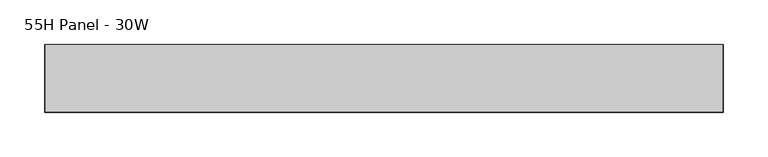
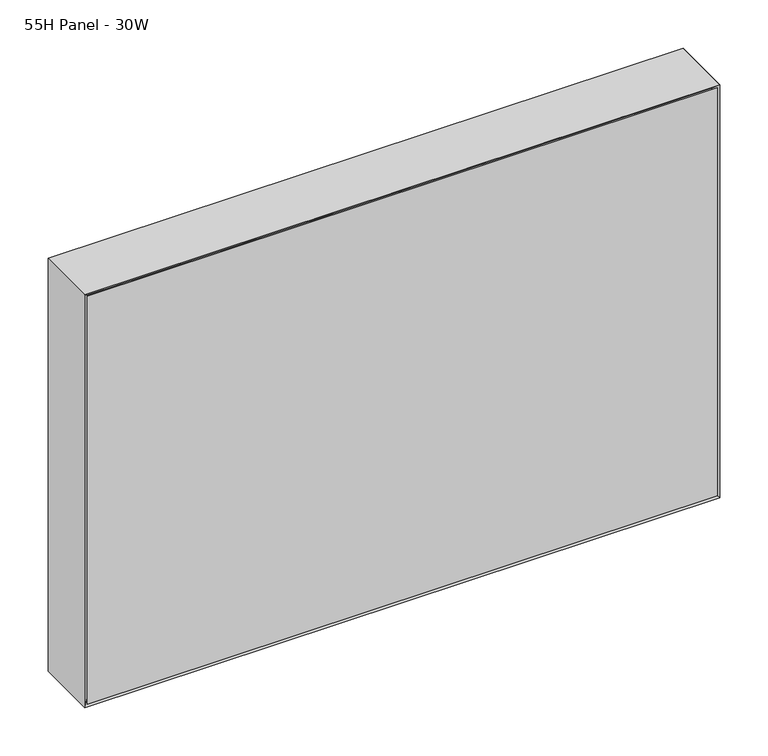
"""IFC4 building model written with IfcOpenShell, lengths in millimetres: furniture geometry, Steelcase - Montage - Frame - 20H - Enhanced Standard - Single Stack-On : 55H Panel - 30W."""

from ifc_helpers import new_model, si_unit, frame, origin, place, context, project, spatial, polyline, outline, extrude, faceted_brep, source, transform, mapped, element, save


def furniture_55h_panel_30w_9cbc1048(model_context):
    return source(origin(), model_context, "Body", "SolidModel", [
        faceted_brep([(752.4750027, 31.7500194, 1912.9374516), (9.5250028, 31.7500194, 1912.9374516), (9.5250028, 31.7500194, 1408.1125), (752.4750027, 31.7500194, 1408.1125), (758.825, 38.1000194, 1919.2874516), (758.825, 38.1000194, 1401.7625), (3.175, 38.1000194, 1401.7625), (3.175, 38.1000194, 1919.2874516)], [[[0, 1, 2, 3]], [[4, 5, 6, 7]], [[4, 0, 3, 5]], [[5, 3, 2, 6]], [[6, 2, 1, 7]], [[7, 1, 0, 4]]]),
        faceted_brep([(752.4750027, -31.7500194, 1912.9374516), (752.4750027, -31.7500194, 1408.1125), (9.5250028, -31.7500194, 1408.1125), (9.5250028, -31.7500194, 1912.9374516), (758.825, -38.1000194, 1919.2874516), (3.175, -38.1000194, 1919.2874516), (3.175, -38.1000194, 1401.7625), (758.825, -38.1000194, 1401.7625)], [[[0, 1, 2, 3]], [[4, 5, 6, 7]], [[4, 7, 1, 0]], [[7, 6, 2, 1]], [[6, 5, 3, 2]], [[5, 4, 0, 3]]]),
        faceted_brep([(762.0, -38.1000015, 1398.5875), (762.0, 38.1000015, 1398.5875), (762.0, 38.1000015, 1922.4624516), (762.0, -38.1000106, 1922.4624515), (0.0, 38.1000015, 1398.5875), (0.0, -38.1000015, 1398.5875), (0.0, -38.1000015, 1922.4624516), (0.0, 38.1000015, 1922.4624516), (6.3500484, 31.749953, 1404.9375484), (755.6499879, 31.749953, 1404.9375484), (6.35, -31.749953, 1404.9375484), (755.6499879, -31.749953, 1404.9375484), (6.3500165, 31.749985, 1916.112435), (6.3500006, -31.7500009, 1916.1124031), (755.6499879, -31.7499979, 1916.1124031), (755.6499879, 31.7499889, 1916.1124394)], [[[0, 1, 2, 3]], [[4, 5, 6, 7]], [[1, 0, 5, 4]], [[1, 4, 8, 9]], [[9, 8, 10, 11]], [[5, 0, 11, 10]], [[4, 7, 12, 8]], [[6, 5, 10, 13]], [[10, 8, 12, 13]], [[9, 11, 14, 15]], [[0, 3, 14, 11]], [[2, 1, 9, 15]], [[3, 2, 15, 14]], [[7, 6, 13, 12]]]),
        faceted_brep([(762.0, -38.1000015, 1922.4624516), (0.0, -38.1000015, 1922.4624516), (6.3500484, -31.749953, 1916.1124031), (755.6499516, -31.749953, 1916.1124031), (6.3500484, 31.749953, 1916.1124031), (755.6499516, 31.749953, 1916.1124031), (0.0, 38.1000015, 1922.4624516), (762.0, 38.1000015, 1922.4624516)], [[[0, 1, 2, 3]], [[3, 2, 4, 5]], [[6, 7, 5, 4]], [[1, 0, 7, 6]], [[2, 1, 6, 4]], [[0, 3, 5, 7]]]),
        extrude(outline(polyline([(755.6499879, 31.7500016), (755.6499879, -31.7499985), (6.35, -31.7499985), (6.35, 31.7500016), (755.6499879, 31.7500016)])), frame((0.0, 0.0, 1404.9327145), z_axis=(0.0, 0.0, 1.0), x_axis=(1.0, 0.0, 0.0)), (0.0, 0.0, 1.0), 511.1796886),
    ])


if __name__ == "__main__":
    model = new_model("IFC4")
    model_context = context("Model", 3, world=origin())
    ifc_project = project(units=[si_unit("LENGTHUNIT", "METRE", prefix="MILLI")], contexts=[model_context])
    site = spatial("IfcSite", under=ifc_project)
    building = spatial("IfcBuilding", under=site)
    placement = place(None, origin())
    furniture_55h_panel_30w_shape = furniture_55h_panel_30w_9cbc1048(model_context)
    element("IfcFurniture", 1, ObjectType="Steelcase - Montage - Frame - 20H - Enhanced Standard - Single Stack-On : 55H Panel - 30W", at=placement, inside=building, context=model_context, shape_type="MappedRepresentation", body=[
        mapped(furniture_55h_panel_30w_shape, transform((0.0, 0.0, 0.0), x_axis=(1.0, 0.0, 0.0), y_axis=(0.0, 1.0, 0.0), z_axis=(0.0, 0.0, 1.0))),
    ])
    save(model, "model.ifc")
